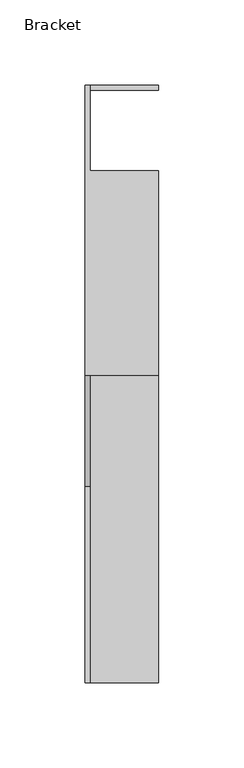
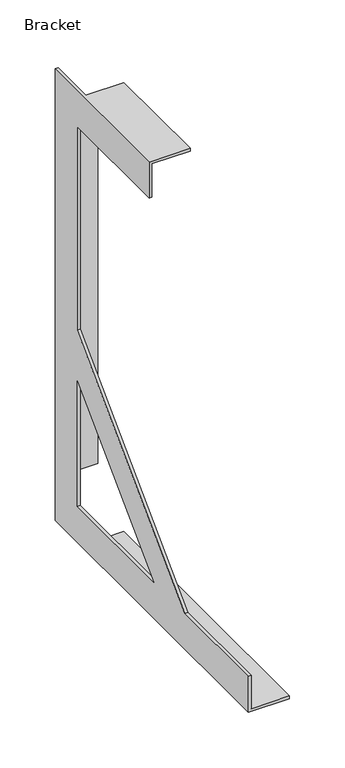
"""IFC4 building model written with IfcOpenShell, lengths in millimetres: furniture geometry, X_Vanity-Bracket-Duracube-Bench Support : Bracket."""

from ifc_helpers import new_model, si_unit, origin, place, context, project, spatial, faceted_brep, source, transform, mapped, element, save


def bracket_d3650df9(model_context):
    return source(origin(), model_context, "Body", "Brep", [
        faceted_brep([(21.5, 125.0, 3.0), (-18.5, 125.0, 3.0), (-18.5, -175.0, 3.0), (21.5, -175.0, 3.0), (21.5, 125.0, 0.0), (21.5, -175.0, 0.0), (-21.5, -175.0, 0.0), (-21.5, 175.0, 0.0), (-18.5, 175.0, 0.0), (-18.5, 125.0, 0.0), (-18.5, -175.0, 40.0), (-21.5, -175.0, 40.0), (-18.5, 5.0, 460.0), (-18.5, 135.0, 460.0), (-18.5, 135.0, 235.0), (-18.5, -60.0, 40.0), (-18.5, 175.0, 50.0), (-18.5, 172.0, 50.0), (-18.5, 172.0, 450.0), (-18.5, 175.0, 450.0), (-18.5, 175.0, 500.0), (-18.5, 125.0, 500.0), (-18.5, 125.0, 497.0), (-18.5, 5.0, 497.0), (-18.5, 135.0, 40.0), (-18.5, -3.4314575, 40.0), (-18.5, 135.0, 178.4314575), (-21.5, -60.0, 40.0), (-21.5, 135.0, 235.0), (-21.5, 135.0, 460.0), (-21.5, 5.0, 460.0), (-21.5, 5.0, 500.0), (-21.5, 175.0, 500.0), (-21.5, 135.0, 40.0), (-21.5, 135.0, 178.4314575), (-21.5, -3.4314575, 40.0), (21.5, 175.0, 450.0), (21.5, 175.0, 50.0), (21.5, 5.0, 500.0), (21.5, 125.0, 500.0), (21.5, 5.0, 497.0), (21.5, 172.0, 50.0), (21.5, 172.0, 450.0), (21.5, 125.0, 497.0)], [[[0, 1, 2, 3]], [[4, 5, 6, 7, 8, 9]], [[1, 0, 4, 9]], [[3, 2, 10, 11, 6, 5]], [[0, 3, 5, 4]], [[12, 13, 14, 15, 10, 2, 1, 9, 8, 16, 17, 18, 19, 20, 21, 22, 23], [24, 25, 26]], [[11, 27, 28, 29, 30, 31, 32, 7, 6], [33, 34, 35]], [[7, 32, 20, 19, 36, 37, 16, 8]], [[32, 31, 38, 39, 21, 20]], [[38, 31, 30, 12, 23, 40]], [[13, 12, 30, 29]], [[14, 13, 29, 28]], [[15, 14, 28, 27]], [[10, 15, 27, 11]], [[25, 24, 33, 35]], [[26, 25, 35, 34]], [[24, 26, 34, 33]], [[17, 41, 42, 18]], [[41, 17, 16, 37]], [[42, 41, 37, 36]], [[18, 42, 36, 19]], [[43, 40, 23, 22]], [[21, 39, 43, 22]], [[39, 38, 40, 43]]]),
    ])


if __name__ == "__main__":
    model = new_model("IFC4")
    model_context = context("Model", 3, world=origin())
    ifc_project = project(units=[si_unit("LENGTHUNIT", "METRE", prefix="MILLI")], contexts=[model_context])
    site = spatial("IfcSite", under=ifc_project)
    building = spatial("IfcBuilding", under=site)
    placement = place(None, origin())
    bracket_shape = bracket_d3650df9(model_context)
    element("IfcFurniture", 1, ObjectType="X_Vanity-Bracket-Duracube-Bench Support : Bracket", at=placement, inside=building, context=model_context, shape_type="MappedRepresentation", body=[
        mapped(bracket_shape, transform((0.0, 0.0, 0.0), x_axis=(1.0, 0.0, 0.0), y_axis=(0.0, 1.0, 0.0), z_axis=(0.0, 0.0, 1.0))),
    ])
    save(model, "model.ifc")
